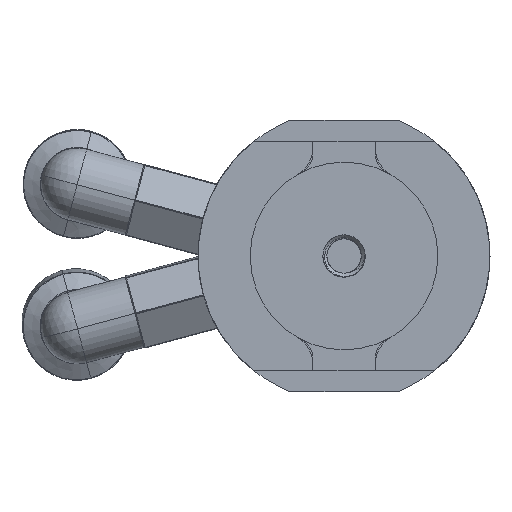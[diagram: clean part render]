
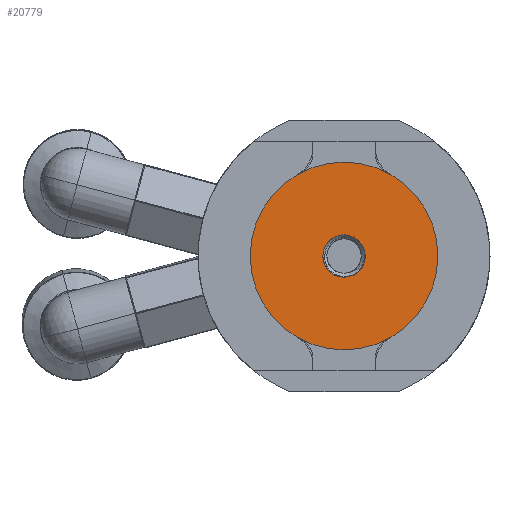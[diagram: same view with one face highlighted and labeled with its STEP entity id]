
A CAD part, front view. The second image highlights one B-rep face of the part: STEP entity #20779.
In plain terms, the highlighted planar face has unit normal (0, -1, 0).
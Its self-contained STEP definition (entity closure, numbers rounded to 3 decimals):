
#964 = CARTESIAN_POINT ( 'NONE',  ( 2.021, 0., 0.152 ) ) ;
#1226 = CARTESIAN_POINT ( 'NONE',  ( 0., 0., 0. ) ) ;
#2852 = VERTEX_POINT ( 'NONE', #17329 ) ;
#2877 = CARTESIAN_POINT ( 'NONE',  ( 2.023, 0., 0.138 ) ) ;
#3117 = AXIS2_PLACEMENT_3D ( 'NONE', #10321, #16349, #21088 ) ;
#3262 = CARTESIAN_POINT ( 'NONE',  ( 1.69, 0., -1.131 ) ) ;
#3402 = CARTESIAN_POINT ( 'NONE',  ( 1.993, 0., -0.402 ) ) ;
#3438 = VERTEX_POINT ( 'NONE', #12816 ) ;
#4625 = CARTESIAN_POINT ( 'NONE',  ( 2.025, 0., 0.123 ) ) ;
#5269 = PLANE ( 'NONE',  #12783 ) ;
#5388 = CARTESIAN_POINT ( 'NONE',  ( 2.018, 0., 0.166 ) ) ;
#5525 = ORIENTED_EDGE ( 'NONE', *, *, #22799, .F. ) ;
#5526 = CARTESIAN_POINT ( 'NONE',  ( 0., 0., 0. ) ) ;
#6923 = EDGE_CURVE ( 'NONE', #23442, #3438, #13082, .T. ) ;
#7668 = B_SPLINE_CURVE_WITH_KNOTS ( 'NONE', 3,
 ( #18374, #16281, #9817, #16569 ),
 .UNSPECIFIED., .F., .F.,
 ( 4, 4 ),
 ( 0.004, 0.004 ),
 .UNSPECIFIED. ) ;
#7811 = B_SPLINE_CURVE_WITH_KNOTS ( 'NONE', 3,
 ( #11943, #17234, #3262, #28457, #8273, #7976, #3402, #12230, #16938, #12380 ),
 .UNSPECIFIED., .F., .F.,
 ( 4, 2, 2, 2, 4 ),
 ( 0., 0., 0.001, 0.001, 0.002 ),
 .UNSPECIFIED. ) ;
#7976 = CARTESIAN_POINT ( 'NONE',  ( 1.963, 0., -0.532 ) ) ;
#8273 = CARTESIAN_POINT ( 'NONE',  ( 1.876, 0., -0.783 ) ) ;
#8576 = EDGE_LOOP ( 'NONE', ( #5525, #24266 ) ) ;
#9511 = AXIS2_PLACEMENT_3D ( 'NONE', #1226, #25671, #19200 ) ;
#9817 = CARTESIAN_POINT ( 'NONE',  ( 1.514, 0., -1.349 ) ) ;
#10089 = ORIENTED_EDGE ( 'NONE', *, *, #6923, .F. ) ;
#10321 = CARTESIAN_POINT ( 'NONE',  ( 0., 0., 0. ) ) ;
#11757 = VERTEX_POINT ( 'NONE', #18765 ) ;
#11943 = CARTESIAN_POINT ( 'NONE',  ( 1.524, 0., -1.34 ) ) ;
#12230 = CARTESIAN_POINT ( 'NONE',  ( 2.028, 0., -0.142 ) ) ;
#12245 = B_SPLINE_CURVE_WITH_KNOTS ( 'NONE', 3,
 ( #25405, #2877, #964, #25267 ),
 .UNSPECIFIED., .F., .F.,
 ( 4, 4 ),
 ( 0., 0. ),
 .UNSPECIFIED. ) ;
#12319 = CARTESIAN_POINT ( 'NONE',  ( 0., 0., 0. ) ) ;
#12380 = CARTESIAN_POINT ( 'NONE',  ( 2.025, 0., 0.123 ) ) ;
#12737 = DIRECTION ( 'NONE',  ( 0., -1., 0. ) ) ;
#12783 = AXIS2_PLACEMENT_3D ( 'NONE', #12319, #14236, #21330 ) ;
#12816 = CARTESIAN_POINT ( 'NONE',  ( 0., 0., 2.025 ) ) ;
#13082 = CIRCLE ( 'NONE', #16836, 2.025 ) ;
#14236 = DIRECTION ( 'NONE',  ( 0., 1., 0. ) ) ;
#14929 = ORIENTED_EDGE ( 'NONE', *, *, #22067, .F. ) ;
#14962 = EDGE_CURVE ( 'NONE', #24464, #23254, #7668, .T. ) ;
#15848 = CARTESIAN_POINT ( 'NONE',  ( 1.494, 0., -1.367 ) ) ;
#15948 = ORIENTED_EDGE ( 'NONE', *, *, #26837, .F. ) ;
#16281 = CARTESIAN_POINT ( 'NONE',  ( 1.504, 0., -1.358 ) ) ;
#16295 = ORIENTED_EDGE ( 'NONE', *, *, #18574, .F. ) ;
#16349 = DIRECTION ( 'NONE',  ( 0., -1., 0. ) ) ;
#16481 = EDGE_CURVE ( 'NONE', #2852, #19631, #20503, .T. ) ;
#16554 = EDGE_LOOP ( 'NONE', ( #16668, #19012, #14929, #10089, #15948, #16295 ) ) ;
#16569 = CARTESIAN_POINT ( 'NONE',  ( 1.524, 0., -1.34 ) ) ;
#16668 = ORIENTED_EDGE ( 'NONE', *, *, #14962, .F. ) ;
#16836 = AXIS2_PLACEMENT_3D ( 'NONE', #23368, #12737, #17290 ) ;
#16938 = CARTESIAN_POINT ( 'NONE',  ( 2.033, 0., -0.01 ) ) ;
#17003 = DIRECTION ( 'NONE',  ( 0., -1., 0. ) ) ;
#17234 = CARTESIAN_POINT ( 'NONE',  ( 1.612, 0., -1.24 ) ) ;
#17290 = DIRECTION ( 'NONE',  ( 0., 0., -1. ) ) ;
#17329 = CARTESIAN_POINT ( 'NONE',  ( 0., 0., 9. ) ) ;
#18374 = CARTESIAN_POINT ( 'NONE',  ( 1.494, 0., -1.367 ) ) ;
#18574 = EDGE_CURVE ( 'NONE', #23254, #27065, #7811, .T. ) ;
#18607 = AXIS2_PLACEMENT_3D ( 'NONE', #5526, #23505, #27919 ) ;
#18765 = CARTESIAN_POINT ( 'NONE',  ( 0., 0., -2.025 ) ) ;
#19012 = ORIENTED_EDGE ( 'NONE', *, *, #24786, .F. ) ;
#19200 = DIRECTION ( 'NONE',  ( 0., 0., 1. ) ) ;
#19307 = CARTESIAN_POINT ( 'NONE',  ( 1.524, 0., -1.34 ) ) ;
#19631 = VERTEX_POINT ( 'NONE', #24725 ) ;
#20063 = CIRCLE ( 'NONE', #3117, 2.025 ) ;
#20394 = CIRCLE ( 'NONE', #28409, 2.025 ) ;
#20503 = CIRCLE ( 'NONE', #18607, 9. ) ;
#20779 = ADVANCED_FACE ( 'NONE', ( #21040, #27957 ), #5269, .F. ) ;
#21040 = FACE_OUTER_BOUND ( 'NONE', #8576, .T. ) ;
#21088 = DIRECTION ( 'NONE',  ( 0., 0., -1. ) ) ;
#21330 = DIRECTION ( 'NONE',  ( 0., 0., 1. ) ) ;
#21889 = CARTESIAN_POINT ( 'NONE',  ( 0., 0., 0. ) ) ;
#22067 = EDGE_CURVE ( 'NONE', #3438, #11757, #20394, .T. ) ;
#22799 = EDGE_CURVE ( 'NONE', #19631, #2852, #25973, .T. ) ;
#23254 = VERTEX_POINT ( 'NONE', #19307 ) ;
#23368 = CARTESIAN_POINT ( 'NONE',  ( 0., 0., 0. ) ) ;
#23442 = VERTEX_POINT ( 'NONE', #5388 ) ;
#23505 = DIRECTION ( 'NONE',  ( 0., 1., 0. ) ) ;
#24266 = ORIENTED_EDGE ( 'NONE', *, *, #16481, .F. ) ;
#24464 = VERTEX_POINT ( 'NONE', #15848 ) ;
#24725 = CARTESIAN_POINT ( 'NONE',  ( 0., 0., -9. ) ) ;
#24786 = EDGE_CURVE ( 'NONE', #11757, #24464, #20063, .T. ) ;
#25267 = CARTESIAN_POINT ( 'NONE',  ( 2.018, 0., 0.166 ) ) ;
#25405 = CARTESIAN_POINT ( 'NONE',  ( 2.025, 0., 0.123 ) ) ;
#25671 = DIRECTION ( 'NONE',  ( 0., 1., 0. ) ) ;
#25973 = CIRCLE ( 'NONE', #9511, 9. ) ;
#26145 = DIRECTION ( 'NONE',  ( 0., 0., -1. ) ) ;
#26837 = EDGE_CURVE ( 'NONE', #27065, #23442, #12245, .T. ) ;
#27065 = VERTEX_POINT ( 'NONE', #4625 ) ;
#27919 = DIRECTION ( 'NONE',  ( 0., 0., 1. ) ) ;
#27957 = FACE_BOUND ( 'NONE', #16554, .T. ) ;
#28409 = AXIS2_PLACEMENT_3D ( 'NONE', #21889, #17003, #26145 ) ;
#28457 = CARTESIAN_POINT ( 'NONE',  ( 1.822, 0., -0.903 ) ) ;
